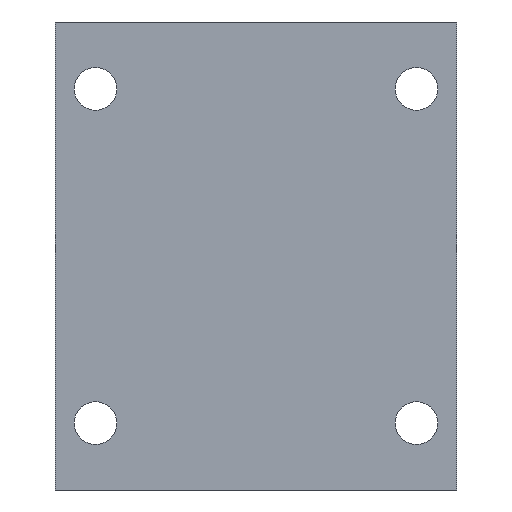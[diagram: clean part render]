
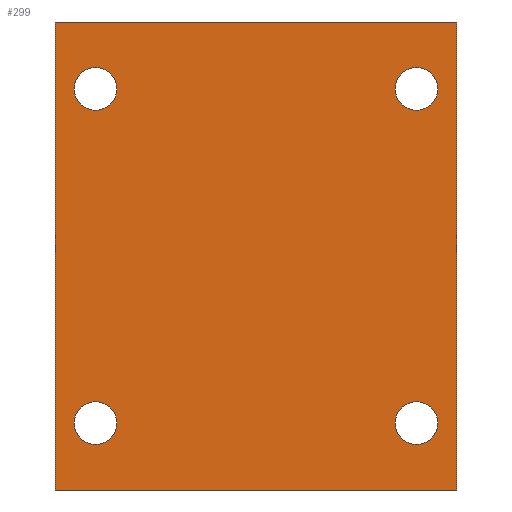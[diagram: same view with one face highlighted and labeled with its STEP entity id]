
A CAD part, front view. The second image highlights one B-rep face of the part: STEP entity #299.
In plain terms, the highlighted planar face has unit normal (0, -1, 0).
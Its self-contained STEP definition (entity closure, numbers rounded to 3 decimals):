
#27=LINE('',#470,#51);
#30=LINE('',#476,#54);
#31=LINE('',#478,#55);
#32=LINE('',#479,#56);
#51=VECTOR('',#392,35.);
#54=VECTOR('',#397,30.);
#55=VECTOR('',#398,35.);
#56=VECTOR('',#399,30.);
#75=PLANE('',#328);
#85=FACE_BOUND('',#130,.T.);
#86=FACE_BOUND('',#131,.T.);
#87=FACE_BOUND('',#132,.T.);
#88=FACE_BOUND('',#133,.T.);
#107=FACE_OUTER_BOUND('',#129,.T.);
#129=EDGE_LOOP('',(#249,#250,#251,#252));
#130=EDGE_LOOP('',(#253));
#131=EDGE_LOOP('',(#254));
#132=EDGE_LOOP('',(#255));
#133=EDGE_LOOP('',(#256));
#145=CIRCLE('',#308,1.6);
#147=CIRCLE('',#311,1.6);
#149=CIRCLE('',#314,1.6);
#151=CIRCLE('',#317,1.6);
#155=VERTEX_POINT('',#417);
#157=VERTEX_POINT('',#422);
#159=VERTEX_POINT('',#427);
#161=VERTEX_POINT('',#432);
#173=VERTEX_POINT('',#467);
#174=VERTEX_POINT('',#469);
#176=VERTEX_POINT('',#475);
#177=VERTEX_POINT('',#477);
#181=EDGE_CURVE('',#155,#155,#145,.T.);
#183=EDGE_CURVE('',#157,#157,#147,.T.);
#185=EDGE_CURVE('',#159,#159,#149,.T.);
#187=EDGE_CURVE('',#161,#161,#151,.T.);
#203=EDGE_CURVE('',#174,#173,#27,.T.);
#206=EDGE_CURVE('',#173,#176,#30,.T.);
#207=EDGE_CURVE('',#177,#176,#31,.T.);
#208=EDGE_CURVE('',#174,#177,#32,.T.);
#249=ORIENTED_EDGE('',*,*,#206,.T.);
#250=ORIENTED_EDGE('',*,*,#207,.F.);
#251=ORIENTED_EDGE('',*,*,#208,.F.);
#252=ORIENTED_EDGE('',*,*,#203,.T.);
#253=ORIENTED_EDGE('',*,*,#181,.T.);
#254=ORIENTED_EDGE('',*,*,#183,.T.);
#255=ORIENTED_EDGE('',*,*,#185,.T.);
#256=ORIENTED_EDGE('',*,*,#187,.T.);
#299=ADVANCED_FACE('',(#107,#85,#86,#87,#88),#75,.T.);
#308=AXIS2_PLACEMENT_3D('',#418,#339,#340);
#311=AXIS2_PLACEMENT_3D('',#423,#345,#346);
#314=AXIS2_PLACEMENT_3D('',#428,#351,#352);
#317=AXIS2_PLACEMENT_3D('',#433,#357,#358);
#328=AXIS2_PLACEMENT_3D('',#474,#395,#396);
#339=DIRECTION('center_axis',(0.,1.,0.));
#340=DIRECTION('ref_axis',(1.,0.,0.));
#345=DIRECTION('center_axis',(0.,1.,0.));
#346=DIRECTION('ref_axis',(1.,0.,0.));
#351=DIRECTION('center_axis',(0.,1.,0.));
#352=DIRECTION('ref_axis',(1.,0.,0.));
#357=DIRECTION('center_axis',(0.,1.,0.));
#358=DIRECTION('ref_axis',(1.,0.,0.));
#392=DIRECTION('',(0.,0.,1.));
#395=DIRECTION('center_axis',(0.,-1.,0.));
#396=DIRECTION('ref_axis',(0.,0.,-1.));
#397=DIRECTION('',(-1.,0.,0.));
#398=DIRECTION('',(0.,0.,1.));
#399=DIRECTION('',(-1.,0.,0.));
#417=CARTESIAN_POINT('',(13.6,-6.,5.));
#418=CARTESIAN_POINT('Origin',(12.,-6.,5.));
#422=CARTESIAN_POINT('',(-10.4,-6.,5.));
#423=CARTESIAN_POINT('Origin',(-12.,-6.,5.));
#427=CARTESIAN_POINT('',(13.6,-6.,30.));
#428=CARTESIAN_POINT('Origin',(12.,-6.,30.));
#432=CARTESIAN_POINT('',(-10.4,-6.,30.));
#433=CARTESIAN_POINT('Origin',(-12.,-6.,30.));
#467=CARTESIAN_POINT('',(15.,-6.,35.));
#469=CARTESIAN_POINT('',(15.,-6.,0.));
#470=CARTESIAN_POINT('',(15.,-6.,0.));
#474=CARTESIAN_POINT('Origin',(15.,-6.,0.));
#475=CARTESIAN_POINT('',(-15.,-6.,35.));
#476=CARTESIAN_POINT('',(15.,-6.,35.));
#477=CARTESIAN_POINT('',(-15.,-6.,0.));
#478=CARTESIAN_POINT('',(-15.,-6.,0.));
#479=CARTESIAN_POINT('',(15.,-6.,0.));
